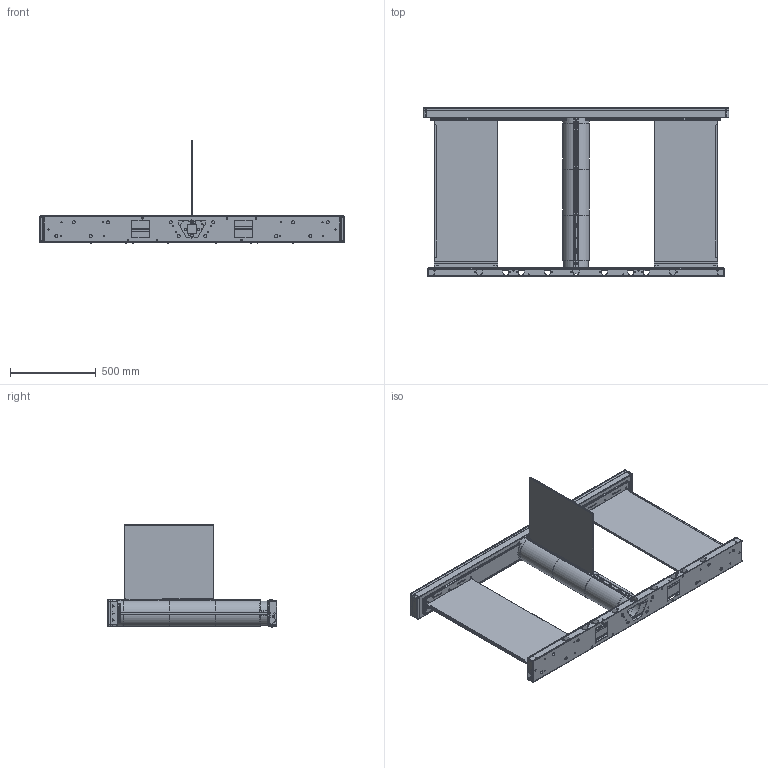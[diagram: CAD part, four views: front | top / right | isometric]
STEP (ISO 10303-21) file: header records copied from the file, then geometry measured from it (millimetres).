
FILE_DESCRIPTION (( 'STEP AP214' ), '1' );
FILE_NAME ('ユニ_サイドM【ワイド】.STEP', '2023-02-27T04:35:31', ( 'cadcl' ), ( 'Hewlett-Packard Company' ), 'SwSTEP 2.0', 'SolidWorks 2022', '' );
FILE_SCHEMA (( 'AUTOMOTIVE_DESIGN' ));
Length unit declared in the file: millimetre
Products named in the file (56): 301-06197-01_解錠; Z07-00042-00_２．３：２．３; 201-06515-18_閉扉; 201-06315-19; 201-06527-43; 201-06312-02; Z03-00734-00; 201-06204-73; 201-06515-84; 201-06527-41; 201-06315-02; 201-06515-68; 201-06515-50; 201-06316-62_解錠; 201-06515-51; 201-06203-16; 201-06515-66; 201-06316-64; 201-06515-69_上位アセンブリ用; ユニ_サイドM【ワイド】; 201-06315-68; 201-06515-85; 201-06203-13; 201-06315-57; 201-06316-33; 201-06515-71; 201-06315-31; 201-06316-63; Z03-00854-00; 201-06315-04; 201-06203-56; 201-06515-65; Z01-00599-00; 201-06515-67; 201-06316-32; 201-06315-00_デフォルト; 201-06315-18; Z01-00618-00; 201-06203-14; 201-06315-67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
Assembly tree (132 placements, depth 4):
  ユニ_サイドM【ワイド】
    201-06515-38
      201-06515-50
        201-06515-51
        201-06515-84
        201-06515-85
        Z01-00599-00  x12
      201-06316-32
        201-06313-34
      201-06316-25
        201-06203-15
        201-06203-14
      201-06316-33
        201-06203-15
        201-06203-14
      201-06316-23
        201-06210-58
      201-06316-62_解錠
        201-06316-63
        Z07-00047-00_かしめ４．１ｍｍ  x4
        301-06197-01_解錠
      201-06203-13  x2
      201-06203-16
    201-06515-18_閉扉
      201-06313-87
      201-06515-65
      201-06515-66
        201-06515-67
        201-06527-41
      201-06527-42
        201-06315-57
        201-06527-43
      201-06316-64  x2
      201-06515-68  x2
      201-06515-69_上位アセンブリ用  x2
        201-06515-70
      201-06515-71  x2
      201-06515-73  x4
      201-06515-74
      Z03-00854-00  x6
      Z01-00618-00  x16
    201-06315-00_デフォルト
      201-06312-02
      201-06315-02  x2
        201-06315-66
        201-06204-73
        201-06203-11
      201-06315-04  x2
        201-06315-67
        201-06204-73
        201-06203-11
      201-06315-68  x2
      201-06315-69  x2
      Z03-00734-00  x19
      Z07-00042-00_２．３：２．３  x8
    201-06315-18  x2
      201-06315-19
    201-06315-31  x2
      201-06315-32
    201-06203-56
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Bounding box: 1780 x 985 x 596.1 mm (x, y, z)
Volume: 14794396.1 mm3; surface area: 6349581.5 mm2
Topology: 120 solids, 120 shells, 4324 faces, 10847 edges, 6916 vertices
Faces by surface type: plane 2284, cylinder 1695, cone 213, torus 102, bspline 30
Entity records: 78555 total; most frequent: CARTESIAN_POINT 14005, DIRECTION 13334, ORIENTED_EDGE 12596, EDGE_CURVE 6298, AXIS2_PLACEMENT_3D 4685, VERTEX_POINT 4054, VECTOR 3964, LINE 3964
